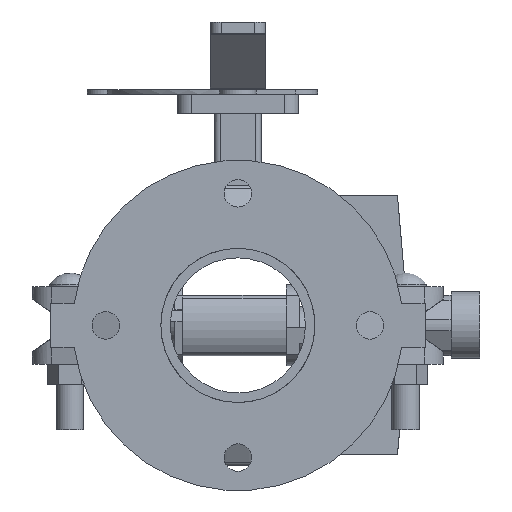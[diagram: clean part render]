
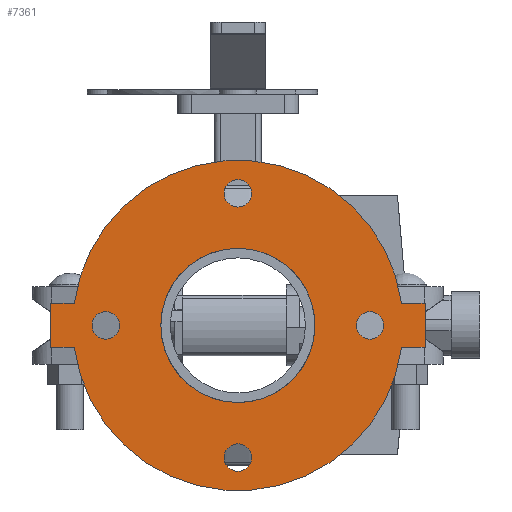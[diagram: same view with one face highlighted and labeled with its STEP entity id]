
A CAD part, front view. The second image highlights one B-rep face of the part: STEP entity #7361.
In plain terms, the highlighted planar face has unit normal (0, -1, 0) as drawn and (0, 0, -1) by its records, which use the part's own axes.
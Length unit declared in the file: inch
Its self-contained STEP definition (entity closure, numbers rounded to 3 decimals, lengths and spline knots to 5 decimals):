
#169=FACE_BOUND('',#903,.T.);
#170=FACE_BOUND('',#904,.T.);
#171=FACE_BOUND('',#905,.T.);
#172=FACE_BOUND('',#906,.T.);
#173=FACE_BOUND('',#907,.T.);
#258=PLANE('',#7982);
#495=FACE_OUTER_BOUND('',#902,.T.);
#902=EDGE_LOOP('',(#4708,#4709,#4710,#4711,#4712,#4713,#4714,#4715));
#903=EDGE_LOOP('',(#4716));
#904=EDGE_LOOP('',(#4717));
#905=EDGE_LOOP('',(#4718));
#906=EDGE_LOOP('',(#4719));
#907=EDGE_LOOP('',(#4720,#4721));
#1398=LINE('',#11185,#1956);
#1399=LINE('',#11187,#1957);
#1400=LINE('',#11189,#1958);
#1401=LINE('',#11193,#1959);
#1402=LINE('',#11195,#1960);
#1403=LINE('',#11196,#1961);
#1956=VECTOR('',#8880,0.3937);
#1957=VECTOR('',#8881,0.3937);
#1958=VECTOR('',#8882,0.3937);
#1959=VECTOR('',#8885,0.3937);
#1960=VECTOR('',#8886,0.3937);
#1961=VECTOR('',#8887,0.3937);
#2511=CIRCLE('',#7972,0.3125);
#2513=CIRCLE('',#7975,0.3125);
#2515=CIRCLE('',#7978,0.3125);
#2517=CIRCLE('',#7981,0.3125);
#2518=CIRCLE('',#7983,3.75);
#2519=CIRCLE('',#7984,3.75);
#2520=CIRCLE('',#7985,1.75);
#2521=CIRCLE('',#7986,1.75);
#2937=VERTEX_POINT('',#11159);
#2939=VERTEX_POINT('',#11165);
#2941=VERTEX_POINT('',#11171);
#2943=VERTEX_POINT('',#11177);
#2944=VERTEX_POINT('',#11181);
#2945=VERTEX_POINT('',#11182);
#2946=VERTEX_POINT('',#11184);
#2947=VERTEX_POINT('',#11186);
#2948=VERTEX_POINT('',#11188);
#2949=VERTEX_POINT('',#11190);
#2950=VERTEX_POINT('',#11192);
#2951=VERTEX_POINT('',#11194);
#2952=VERTEX_POINT('',#11197);
#2953=VERTEX_POINT('',#11198);
#3643=EDGE_CURVE('',#2937,#2937,#2511,.T.);
#3646=EDGE_CURVE('',#2939,#2939,#2513,.T.);
#3649=EDGE_CURVE('',#2941,#2941,#2515,.T.);
#3652=EDGE_CURVE('',#2943,#2943,#2517,.T.);
#3653=EDGE_CURVE('',#2944,#2945,#2518,.T.);
#3654=EDGE_CURVE('',#2945,#2946,#1398,.T.);
#3655=EDGE_CURVE('',#2946,#2947,#1399,.T.);
#3656=EDGE_CURVE('',#2947,#2948,#1400,.T.);
#3657=EDGE_CURVE('',#2948,#2949,#2519,.T.);
#3658=EDGE_CURVE('',#2949,#2950,#1401,.T.);
#3659=EDGE_CURVE('',#2950,#2951,#1402,.T.);
#3660=EDGE_CURVE('',#2951,#2944,#1403,.T.);
#3661=EDGE_CURVE('',#2952,#2953,#2520,.T.);
#3662=EDGE_CURVE('',#2953,#2952,#2521,.T.);
#4708=ORIENTED_EDGE('',*,*,#3653,.T.);
#4709=ORIENTED_EDGE('',*,*,#3654,.T.);
#4710=ORIENTED_EDGE('',*,*,#3655,.T.);
#4711=ORIENTED_EDGE('',*,*,#3656,.T.);
#4712=ORIENTED_EDGE('',*,*,#3657,.T.);
#4713=ORIENTED_EDGE('',*,*,#3658,.T.);
#4714=ORIENTED_EDGE('',*,*,#3659,.T.);
#4715=ORIENTED_EDGE('',*,*,#3660,.T.);
#4716=ORIENTED_EDGE('',*,*,#3643,.T.);
#4717=ORIENTED_EDGE('',*,*,#3646,.T.);
#4718=ORIENTED_EDGE('',*,*,#3649,.T.);
#4719=ORIENTED_EDGE('',*,*,#3652,.T.);
#4720=ORIENTED_EDGE('',*,*,#3661,.T.);
#4721=ORIENTED_EDGE('',*,*,#3662,.T.);
#7361=ADVANCED_FACE('',(#495,#169,#170,#171,#172,#173),#258,.T.);
#7972=AXIS2_PLACEMENT_3D('',#11161,#8853,#8854);
#7975=AXIS2_PLACEMENT_3D('',#11167,#8860,#8861);
#7978=AXIS2_PLACEMENT_3D('',#11173,#8867,#8868);
#7981=AXIS2_PLACEMENT_3D('',#11179,#8874,#8875);
#7982=AXIS2_PLACEMENT_3D('',#11180,#8876,#8877);
#7983=AXIS2_PLACEMENT_3D('',#11183,#8878,#8879);
#7984=AXIS2_PLACEMENT_3D('',#11191,#8883,#8884);
#7985=AXIS2_PLACEMENT_3D('',#11199,#8888,#8889);
#7986=AXIS2_PLACEMENT_3D('',#11200,#8890,#8891);
#8853=DIRECTION('center_axis',(0.,0.,1.));
#8854=DIRECTION('ref_axis',(0.,1.,0.));
#8860=DIRECTION('center_axis',(0.,0.,1.));
#8861=DIRECTION('ref_axis',(1.,0.,0.));
#8867=DIRECTION('center_axis',(0.,0.,1.));
#8868=DIRECTION('ref_axis',(0.,-1.,0.));
#8874=DIRECTION('center_axis',(0.,0.,1.));
#8875=DIRECTION('ref_axis',(-1.,0.,0.));
#8876=DIRECTION('center_axis',(0.,0.,-1.));
#8877=DIRECTION('ref_axis',(-1.,0.,0.));
#8878=DIRECTION('center_axis',(0.,0.,-1.));
#8879=DIRECTION('ref_axis',(-1.,0.,0.));
#8880=DIRECTION('',(0.,1.,0.));
#8881=DIRECTION('',(1.,0.,0.));
#8882=DIRECTION('',(0.,-1.,0.));
#8883=DIRECTION('center_axis',(0.,0.,-1.));
#8884=DIRECTION('ref_axis',(-1.,0.,0.));
#8885=DIRECTION('',(0.,-1.,0.));
#8886=DIRECTION('',(-1.,0.,0.));
#8887=DIRECTION('',(0.,1.,0.));
#8888=DIRECTION('center_axis',(0.,0.,1.));
#8889=DIRECTION('ref_axis',(-1.,0.,0.));
#8890=DIRECTION('center_axis',(0.,0.,1.));
#8891=DIRECTION('ref_axis',(-1.,0.,0.));
#11159=CARTESIAN_POINT('',(0.,2.6875,-0.5));
#11161=CARTESIAN_POINT('Origin',(0.,3.,-0.5));
#11165=CARTESIAN_POINT('',(2.6875,0.,-0.5));
#11167=CARTESIAN_POINT('Origin',(3.,0.,-0.5));
#11171=CARTESIAN_POINT('',(0.,-2.6875,-0.5));
#11173=CARTESIAN_POINT('Origin',(0.,-3.,-0.5));
#11177=CARTESIAN_POINT('',(-2.6875,0.,-0.5));
#11179=CARTESIAN_POINT('Origin',(-3.,0.,-0.5));
#11180=CARTESIAN_POINT('Origin',(0.,0.,-0.5));
#11181=CARTESIAN_POINT('',(-0.5,-3.71652,-0.5));
#11182=CARTESIAN_POINT('',(-0.5,3.71652,-0.5));
#11183=CARTESIAN_POINT('Origin',(0.,0.,-0.5));
#11184=CARTESIAN_POINT('',(-0.5,4.25,-0.5));
#11185=CARTESIAN_POINT('',(-0.5,-4.25,-0.5));
#11186=CARTESIAN_POINT('',(0.5,4.25,-0.5));
#11187=CARTESIAN_POINT('',(-0.5,4.25,-0.5));
#11188=CARTESIAN_POINT('',(0.5,3.71652,-0.5));
#11189=CARTESIAN_POINT('',(0.5,4.25,-0.5));
#11190=CARTESIAN_POINT('',(0.5,-3.71652,-0.5));
#11191=CARTESIAN_POINT('Origin',(0.,0.,-0.5));
#11192=CARTESIAN_POINT('',(0.5,-4.25,-0.5));
#11193=CARTESIAN_POINT('',(0.5,4.25,-0.5));
#11194=CARTESIAN_POINT('',(-0.5,-4.25,-0.5));
#11195=CARTESIAN_POINT('',(0.5,-4.25,-0.5));
#11196=CARTESIAN_POINT('',(-0.5,-4.25,-0.5));
#11197=CARTESIAN_POINT('',(0.5,1.67705,-0.5));
#11198=CARTESIAN_POINT('',(1.75,0.,-0.5));
#11199=CARTESIAN_POINT('Origin',(0.,0.,-0.5));
#11200=CARTESIAN_POINT('Origin',(0.,0.,-0.5));
